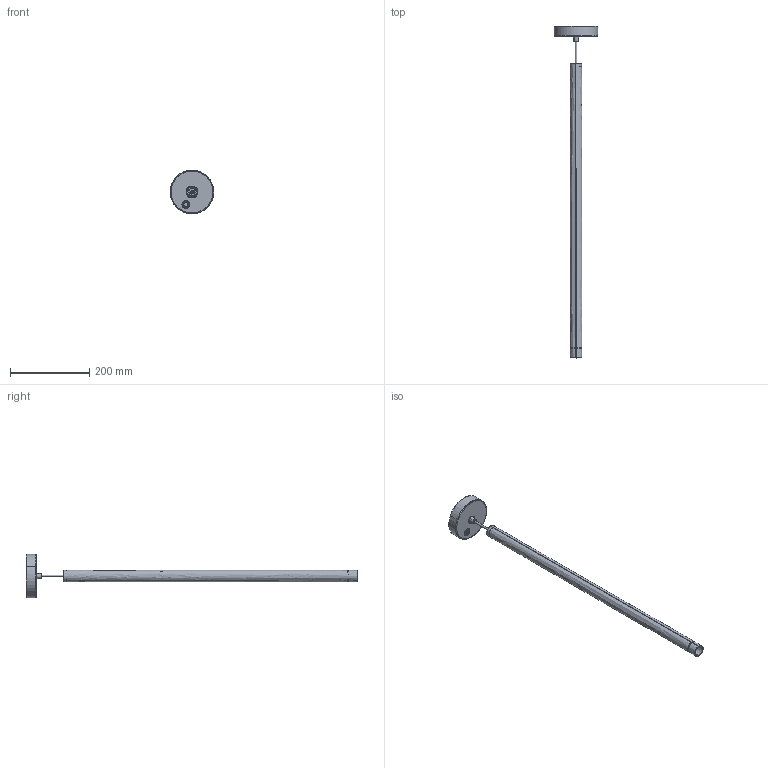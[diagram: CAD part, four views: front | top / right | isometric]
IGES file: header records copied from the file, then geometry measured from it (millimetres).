
Start section: SolidWorks IGES file using analytic representation for surfaces
Global section: file name: C:\Users\tungari.NEMOLIGHTING\Desktop\3D\PENDANT\3D_CANNA_NUDA_METAL_PENDANT\DEFEATURE_3D_CANNA_NUDA_METAL_PENDANT\3D_CANNA_NUDA_METAL_PENDANT.IGS; native system: SolidWorks 2016; preprocessor: SolidWorks 2016; author: tungari; date: 180228.113520; units: millimetre
Bounding box: 109.99 x 840 x 109.93 mm (x, y, z)
Surface area: 195988.2 mm2 (no closed solid volume)
Topology: 0 solids, 0 shells, 149 faces, 2208 edges, 2208 vertices
Faces by surface type: bspline 95, revolution 54
